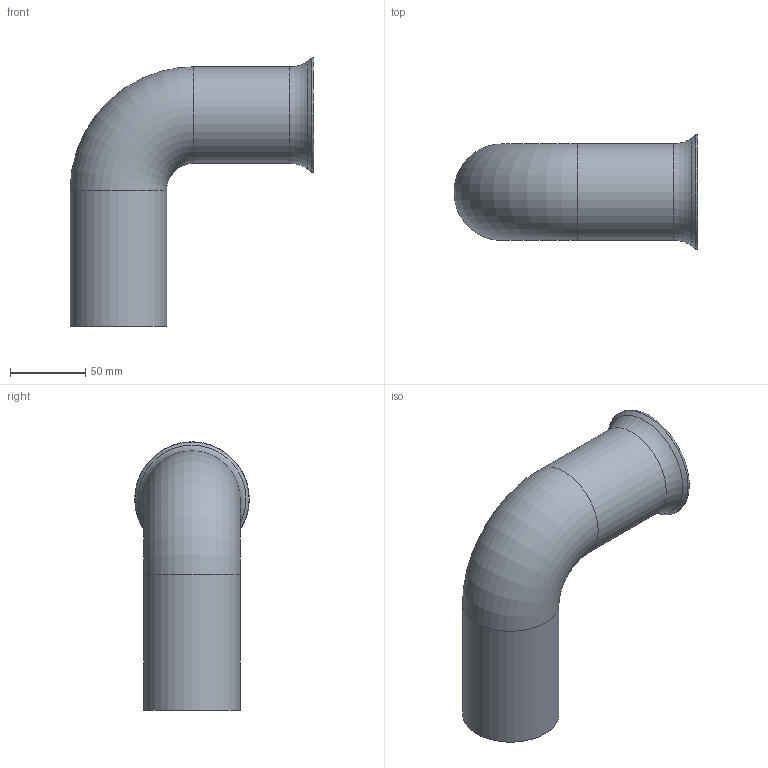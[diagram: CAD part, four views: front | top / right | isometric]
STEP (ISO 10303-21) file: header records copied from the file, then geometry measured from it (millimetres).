
FILE_DESCRIPTION(/* description */ ('STEP AP242 Edition 2','CAx-IF Rec.Pracs.---Representation and Presentation of Product Manufacturing Information (PMI)---4.0---2014-10-13','CAx-IF Rec.Pracs.---3D Tessellated Geometry---0.4---2014-09-14','2;1','CAx-IF Rec.Pracs.---User Defined Attributes---1.5---2016-08-15'),/* implementation_level */ '2;1');
FILE_NAME(/* name */ '693e1f893100820afeb07621',/* time_stamp */ '2025-12-14T02:23:06Z',/* author */ (''),/* organization */ (''),/* preprocessor_version */ 'ST-DEVELOPER v20',/* originating_system */ 'ONSHAPE BY PTC INC, 1.208',/* authorisation */ ' ');
FILE_SCHEMA (('AP242_MANAGED_MODEL_BASED_3D_ENGINEERING_MIM_LF { 1 0 10303 442 3 1 4 }'));
Length unit declared in the file: metre
Products named in the file (1): Port extension
Bounding box: 161.74 x 76.1 x 178.05 mm (x, y, z)
Volume: 100551.6 mm3; surface area: 98616.3 mm2
Topology: 1 solids, 1 shells, 11 faces, 23 edges, 13 vertices
Faces by surface type: torus 5, cylinder 4, plane 1, cone 1
Full cylindrical faces by diameter (mm): 60 x2, 64 x2
Entity records: 250 total; most frequent: DIRECTION 46, CARTESIAN_POINT 34, AXIS2_PLACEMENT_3D 23, ORIENTED_EDGE 22, EDGE_LOOP 22, FACE_BOUND 22, EDGE_CURVE 11, VERTEX_POINT 11
